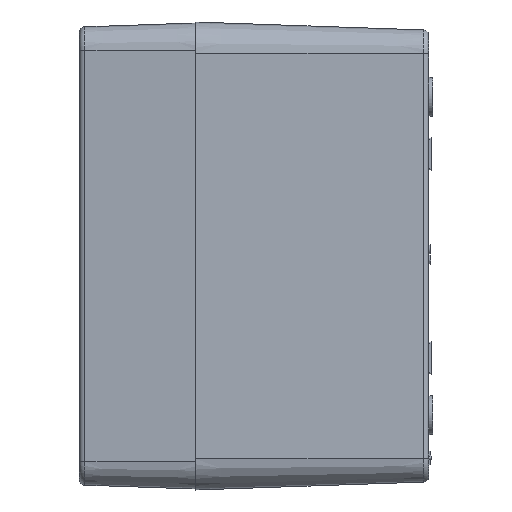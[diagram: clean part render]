
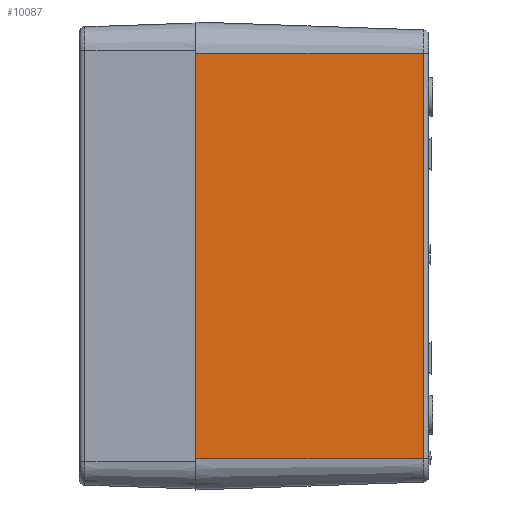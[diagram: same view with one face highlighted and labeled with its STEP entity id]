
A CAD part, left-side view. The second image highlights one B-rep face of the part: STEP entity #10087.
In plain terms, the highlighted planar face has unit normal (-0.999, -0.035, 0) as drawn and (-0.999, 0, -0.035) by its records, which use the part's own axes.
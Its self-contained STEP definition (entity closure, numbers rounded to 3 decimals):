
#1469=FACE_OUTER_BOUND('',#2174,.T.);
#2174=EDGE_LOOP('',(#8036,#8037,#8038,#8039));
#3041=LINE('',#16831,#3867);
#3043=LINE('',#16836,#3869);
#3045=LINE('',#16842,#3871);
#3046=LINE('',#16843,#3872);
#3867=VECTOR('',#12774,104.5);
#3869=VECTOR('',#12780,58.588);
#3871=VECTOR('',#12786,58.588);
#3872=VECTOR('',#12787,104.5);
#4714=VERTEX_POINT('',#16756);
#4718=VERTEX_POINT('',#16770);
#4737=VERTEX_POINT('',#16835);
#4739=VERTEX_POINT('',#16841);
#5923=EDGE_CURVE('',#4714,#4718,#3041,.T.);
#5925=EDGE_CURVE('',#4737,#4718,#3043,.T.);
#5928=EDGE_CURVE('',#4739,#4714,#3045,.T.);
#5929=EDGE_CURVE('',#4737,#4739,#3046,.T.);
#8036=ORIENTED_EDGE('',*,*,#5923,.F.);
#8037=ORIENTED_EDGE('',*,*,#5928,.F.);
#8038=ORIENTED_EDGE('',*,*,#5929,.F.);
#8039=ORIENTED_EDGE('',*,*,#5925,.T.);
#9652=PLANE('',#10828);
#10087=ADVANCED_FACE('',(#1469),#9652,.T.);
#10828=AXIS2_PLACEMENT_3D('',#16840,#12784,#12785);
#12774=DIRECTION('',(0.,1.,0.));
#12780=DIRECTION('',(0.035,0.,-0.999));
#12784=DIRECTION('center_axis',(-0.999,0.,-0.035));
#12785=DIRECTION('ref_axis',(0.,1.,0.));
#12786=DIRECTION('',(0.035,0.,-0.999));
#12787=DIRECTION('',(0.,-1.,0.));
#16756=CARTESIAN_POINT('',(-108.455,-52.25,-58.552));
#16770=CARTESIAN_POINT('',(-108.455,52.25,-58.552));
#16831=CARTESIAN_POINT('',(-108.455,26.125,-58.552));
#16835=CARTESIAN_POINT('',(-110.5,52.25,0.));
#16836=CARTESIAN_POINT('',(-110.5,52.25,0.));
#16840=CARTESIAN_POINT('Origin',(-110.5,52.25,0.));
#16841=CARTESIAN_POINT('',(-110.5,-52.25,0.));
#16842=CARTESIAN_POINT('',(-110.5,-52.25,0.));
#16843=CARTESIAN_POINT('',(-110.5,52.25,0.));
